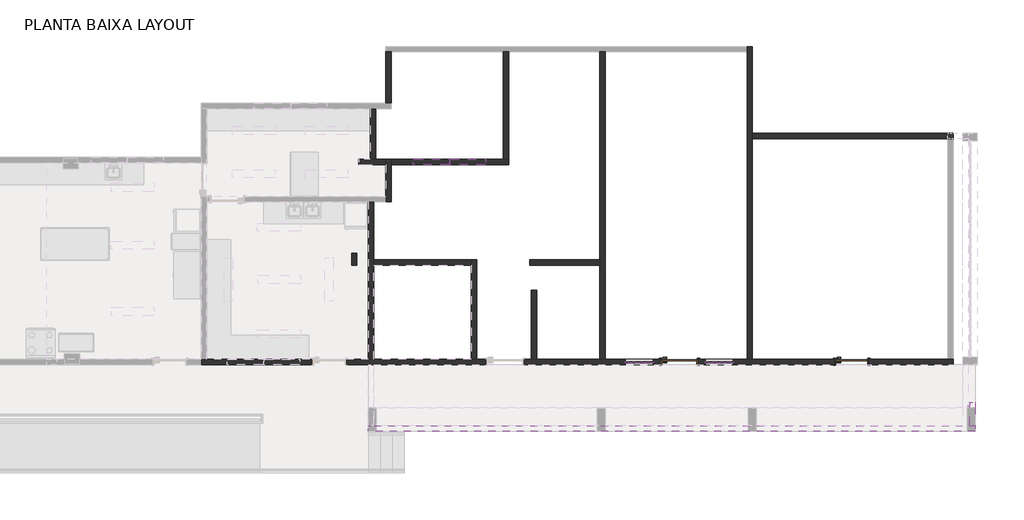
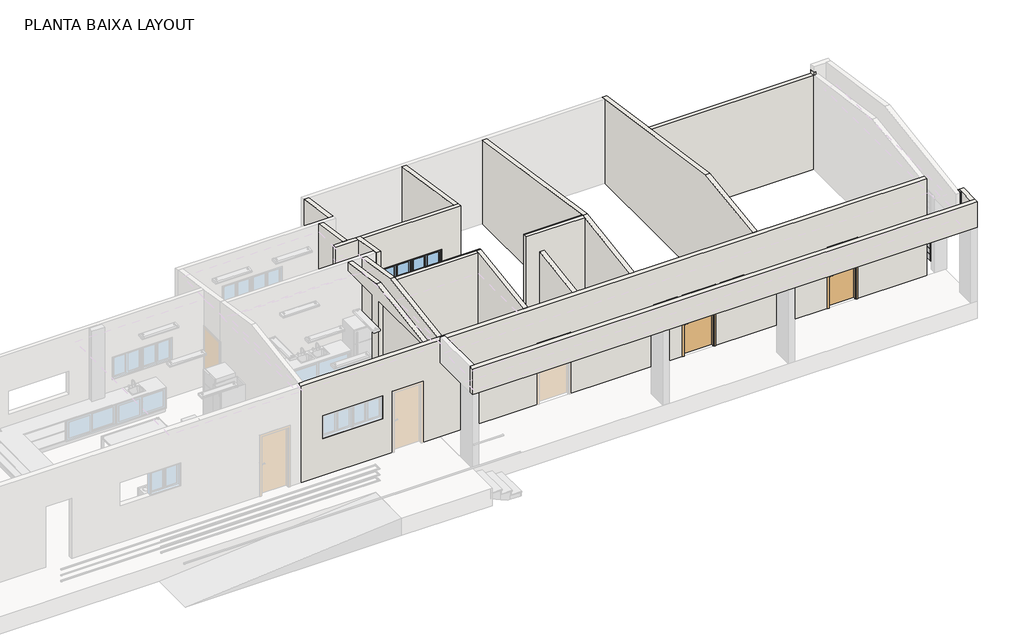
# One storey, part 2 of 6: 65 plates, 19 walls, 3 windows, 2 doors.
"""IFC4 building model written with IfcOpenShell, lengths in millimetres."""

from ifc_helpers import new_model, si_unit, frame, origin, place, context, project, spatial, polyline, outline, extrude, faceted_brep, transform, mapped, element, save
from components import door_11dd9e2f, door_7d303a18, system_panel_vidro_2cm_d02c202c, system_panel_vidro_2cm_242b1e41, window_31080834, window_2c990719, window_158f51de

model = new_model("IFC4")

# Units and contexts
model_context = context("Model", 3, world=origin())
ifc_project = project(units=[si_unit("LENGTHUNIT", "METRE", prefix="MILLI")], contexts=[model_context])

# Site, building, storey
site = spatial("IfcSite", under=ifc_project)
building = spatial("IfcBuilding", under=site)
storey = spatial("IfcBuildingStorey", under=building, Name="PLANTA BAIXA LAYOUT", Elevation=0.0)

# Doors
placement = place(None, origin())
door_shape = door_11dd9e2f(model_context)
element("IfcDoor", 1, ObjectType="Porta acessivel 90cm-FLA : 100x210 (acessível s/ barra)", at=placement, inside=storey, context=model_context, shape_type="MappedRepresentation", body=[
    mapped(door_shape, transform((9840.1165906, -8042.0637549, 0.0), x_axis=(1.0, 0.0, 0.0), y_axis=(0.0, 1.0, 0.0), z_axis=(0.0, 0.0, 1.0))),
])
door_2_shape = door_7d303a18(model_context)
element("IfcDoor", 2, ObjectType="Porta acessivel 90cm-FLA : 90x210 (acessível s/ barra)", at=placement, inside=storey, context=model_context, shape_type="MappedRepresentation", body=[
    mapped(door_2_shape, transform((14610.1165906, -8042.0637549, 0.0), x_axis=(1.0, 0.0, 0.0), y_axis=(0.0, 1.0, 0.0), z_axis=(0.0, 0.0, 1.0))),
])

# Plates
system_panel_vidro_2cm_shape = system_panel_vidro_2cm_d02c202c(model_context)
element("IfcPlate", 3, ObjectType="System Panel : Vidro 2cm", at=placement, inside=storey, context=model_context, shape_type="MappedRepresentation", body=[
    mapped(system_panel_vidro_2cm_shape, transform((8432.6165906, -8042.0637549, 1150.0), x_axis=(1.0, 0.0, 0.0), y_axis=(0.0, 1.0, 0.0), z_axis=(0.0, 0.0, 1.0))),
])
element("IfcPlate", 4, ObjectType="System Panel : Vidro 2cm", at=placement, inside=storey, context=model_context, shape_type="MappedRepresentation", body=[
    mapped(system_panel_vidro_2cm_shape, transform((8632.6165906, -8042.0637549, 1150.0), x_axis=(1.0, 0.0, 0.0), y_axis=(0.0, 1.0, 0.0), z_axis=(0.0, 0.0, 1.0))),
])
element("IfcPlate", 5, ObjectType="System Panel : Vidro 2cm", at=placement, inside=storey, context=model_context, shape_type="MappedRepresentation", body=[
    mapped(system_panel_vidro_2cm_shape, transform((8832.6165906, -8042.0637549, 1150.0), x_axis=(1.0, 0.0, 0.0), y_axis=(0.0, 1.0, 0.0), z_axis=(0.0, 0.0, 1.0))),
])
element("IfcPlate", 6, ObjectType="System Panel : Vidro 2cm", at=placement, inside=storey, context=model_context, shape_type="MappedRepresentation", body=[
    mapped(system_panel_vidro_2cm_shape, transform((8432.6165906, -8042.0637549, 1350.0), x_axis=(1.0, 0.0, 0.0), y_axis=(0.0, 1.0, 0.0), z_axis=(0.0, 0.0, 1.0))),
])
element("IfcPlate", 7, ObjectType="System Panel : Vidro 2cm", at=placement, inside=storey, context=model_context, shape_type="MappedRepresentation", body=[
    mapped(system_panel_vidro_2cm_shape, transform((8632.6165906, -8042.0637549, 1350.0), x_axis=(1.0, 0.0, 0.0), y_axis=(0.0, 1.0, 0.0), z_axis=(0.0, 0.0, 1.0))),
])
element("IfcPlate", 8, ObjectType="System Panel : Vidro 2cm", at=placement, inside=storey, context=model_context, shape_type="MappedRepresentation", body=[
    mapped(system_panel_vidro_2cm_shape, transform((8832.6165906, -8042.0637549, 1350.0), x_axis=(1.0, 0.0, 0.0), y_axis=(0.0, 1.0, 0.0), z_axis=(0.0, 0.0, 1.0))),
])
element("IfcPlate", 9, ObjectType="System Panel : Vidro 2cm", at=placement, inside=storey, context=model_context, shape_type="MappedRepresentation", body=[
    mapped(system_panel_vidro_2cm_shape, transform((8432.6165906, -8042.0637549, 1550.0), x_axis=(1.0, 0.0, 0.0), y_axis=(0.0, 1.0, 0.0), z_axis=(0.0, 0.0, 1.0))),
])
element("IfcPlate", 10, ObjectType="System Panel : Vidro 2cm", at=placement, inside=storey, context=model_context, shape_type="MappedRepresentation", body=[
    mapped(system_panel_vidro_2cm_shape, transform((8632.6165906, -8042.0637549, 1550.0), x_axis=(1.0, 0.0, 0.0), y_axis=(0.0, 1.0, 0.0), z_axis=(0.0, 0.0, 1.0))),
])
element("IfcPlate", 11, ObjectType="System Panel : Vidro 2cm", at=placement, inside=storey, context=model_context, shape_type="MappedRepresentation", body=[
    mapped(system_panel_vidro_2cm_shape, transform((8832.6165906, -8042.0637549, 1550.0), x_axis=(1.0, 0.0, 0.0), y_axis=(0.0, 1.0, 0.0), z_axis=(0.0, 0.0, 1.0))),
])
element("IfcPlate", 12, ObjectType="System Panel : Vidro 2cm", at=placement, inside=storey, context=model_context, shape_type="MappedRepresentation", body=[
    mapped(system_panel_vidro_2cm_shape, transform((8432.6165906, -8042.0637549, 1750.0), x_axis=(1.0, 0.0, 0.0), y_axis=(0.0, 1.0, 0.0), z_axis=(0.0, 0.0, 1.0))),
])
element("IfcPlate", 13, ObjectType="System Panel : Vidro 2cm", at=placement, inside=storey, context=model_context, shape_type="MappedRepresentation", body=[
    mapped(system_panel_vidro_2cm_shape, transform((8632.6165906, -8042.0637549, 1750.0), x_axis=(1.0, 0.0, 0.0), y_axis=(0.0, 1.0, 0.0), z_axis=(0.0, 0.0, 1.0))),
])
element("IfcPlate", 14, ObjectType="System Panel : Vidro 2cm", at=placement, inside=storey, context=model_context, shape_type="MappedRepresentation", body=[
    mapped(system_panel_vidro_2cm_shape, transform((8832.6165906, -8042.0637549, 1750.0), x_axis=(1.0, 0.0, 0.0), y_axis=(0.0, 1.0, 0.0), z_axis=(0.0, 0.0, 1.0))),
])
element("IfcPlate", 15, ObjectType="System Panel : Vidro 2cm", at=placement, inside=storey, context=model_context, shape_type="MappedRepresentation", body=[
    mapped(system_panel_vidro_2cm_shape, transform((8432.6165906, -8042.0637549, 1950.0), x_axis=(1.0, 0.0, 0.0), y_axis=(0.0, 1.0, 0.0), z_axis=(0.0, 0.0, 1.0))),
])
element("IfcPlate", 16, ObjectType="System Panel : Vidro 2cm", at=placement, inside=storey, context=model_context, shape_type="MappedRepresentation", body=[
    mapped(system_panel_vidro_2cm_shape, transform((8632.6165906, -8042.0637549, 1950.0), x_axis=(1.0, 0.0, 0.0), y_axis=(0.0, 1.0, 0.0), z_axis=(0.0, 0.0, 1.0))),
])
element("IfcPlate", 17, ObjectType="System Panel : Vidro 2cm", at=placement, inside=storey, context=model_context, shape_type="MappedRepresentation", body=[
    mapped(system_panel_vidro_2cm_shape, transform((8832.6165906, -8042.0637549, 1950.0), x_axis=(1.0, 0.0, 0.0), y_axis=(0.0, 1.0, 0.0), z_axis=(0.0, 0.0, 1.0))),
])
element("IfcPlate", 18, ObjectType="System Panel : Vidro 2cm", at=placement, inside=storey, context=model_context, shape_type="MappedRepresentation", body=[
    mapped(system_panel_vidro_2cm_shape, transform((10652.6165906, -8042.0637549, 1150.0), x_axis=(1.0, 0.0, 0.0), y_axis=(0.0, 1.0, 0.0), z_axis=(0.0, 0.0, 1.0))),
])
element("IfcPlate", 19, ObjectType="System Panel : Vidro 2cm", at=placement, inside=storey, context=model_context, shape_type="MappedRepresentation", body=[
    mapped(system_panel_vidro_2cm_shape, transform((10852.6165906, -8042.0637549, 1150.0), x_axis=(1.0, 0.0, 0.0), y_axis=(0.0, 1.0, 0.0), z_axis=(0.0, 0.0, 1.0))),
])
element("IfcPlate", 20, ObjectType="System Panel : Vidro 2cm", at=placement, inside=storey, context=model_context, shape_type="MappedRepresentation", body=[
    mapped(system_panel_vidro_2cm_shape, transform((11052.6165906, -8042.0637549, 1150.0), x_axis=(1.0, 0.0, 0.0), y_axis=(0.0, 1.0, 0.0), z_axis=(0.0, 0.0, 1.0))),
])
element("IfcPlate", 21, ObjectType="System Panel : Vidro 2cm", at=placement, inside=storey, context=model_context, shape_type="MappedRepresentation", body=[
    mapped(system_panel_vidro_2cm_shape, transform((10652.6165906, -8042.0637549, 1350.0), x_axis=(1.0, 0.0, 0.0), y_axis=(0.0, 1.0, 0.0), z_axis=(0.0, 0.0, 1.0))),
])
element("IfcPlate", 22, ObjectType="System Panel : Vidro 2cm", at=placement, inside=storey, context=model_context, shape_type="MappedRepresentation", body=[
    mapped(system_panel_vidro_2cm_shape, transform((10852.6165906, -8042.0637549, 1350.0), x_axis=(1.0, 0.0, 0.0), y_axis=(0.0, 1.0, 0.0), z_axis=(0.0, 0.0, 1.0))),
])
element("IfcPlate", 23, ObjectType="System Panel : Vidro 2cm", at=placement, inside=storey, context=model_context, shape_type="MappedRepresentation", body=[
    mapped(system_panel_vidro_2cm_shape, transform((11052.6165906, -8042.0637549, 1350.0), x_axis=(1.0, 0.0, 0.0), y_axis=(0.0, 1.0, 0.0), z_axis=(0.0, 0.0, 1.0))),
])
element("IfcPlate", 24, ObjectType="System Panel : Vidro 2cm", at=placement, inside=storey, context=model_context, shape_type="MappedRepresentation", body=[
    mapped(system_panel_vidro_2cm_shape, transform((10652.6165906, -8042.0637549, 1550.0), x_axis=(1.0, 0.0, 0.0), y_axis=(0.0, 1.0, 0.0), z_axis=(0.0, 0.0, 1.0))),
])
element("IfcPlate", 25, ObjectType="System Panel : Vidro 2cm", at=placement, inside=storey, context=model_context, shape_type="MappedRepresentation", body=[
    mapped(system_panel_vidro_2cm_shape, transform((10852.6165906, -8042.0637549, 1550.0), x_axis=(1.0, 0.0, 0.0), y_axis=(0.0, 1.0, 0.0), z_axis=(0.0, 0.0, 1.0))),
])
element("IfcPlate", 26, ObjectType="System Panel : Vidro 2cm", at=placement, inside=storey, context=model_context, shape_type="MappedRepresentation", body=[
    mapped(system_panel_vidro_2cm_shape, transform((11052.6165906, -8042.0637549, 1550.0), x_axis=(1.0, 0.0, 0.0), y_axis=(0.0, 1.0, 0.0), z_axis=(0.0, 0.0, 1.0))),
])
element("IfcPlate", 27, ObjectType="System Panel : Vidro 2cm", at=placement, inside=storey, context=model_context, shape_type="MappedRepresentation", body=[
    mapped(system_panel_vidro_2cm_shape, transform((10652.6165906, -8042.0637549, 1750.0), x_axis=(1.0, 0.0, 0.0), y_axis=(0.0, 1.0, 0.0), z_axis=(0.0, 0.0, 1.0))),
])
element("IfcPlate", 28, ObjectType="System Panel : Vidro 2cm", at=placement, inside=storey, context=model_context, shape_type="MappedRepresentation", body=[
    mapped(system_panel_vidro_2cm_shape, transform((10852.6165906, -8042.0637549, 1750.0), x_axis=(1.0, 0.0, 0.0), y_axis=(0.0, 1.0, 0.0), z_axis=(0.0, 0.0, 1.0))),
])
element("IfcPlate", 29, ObjectType="System Panel : Vidro 2cm", at=placement, inside=storey, context=model_context, shape_type="MappedRepresentation", body=[
    mapped(system_panel_vidro_2cm_shape, transform((11052.6165906, -8042.0637549, 1750.0), x_axis=(1.0, 0.0, 0.0), y_axis=(0.0, 1.0, 0.0), z_axis=(0.0, 0.0, 1.0))),
])
element("IfcPlate", 30, ObjectType="System Panel : Vidro 2cm", at=placement, inside=storey, context=model_context, shape_type="MappedRepresentation", body=[
    mapped(system_panel_vidro_2cm_shape, transform((10652.6165906, -8042.0637549, 1950.0), x_axis=(1.0, 0.0, 0.0), y_axis=(0.0, 1.0, 0.0), z_axis=(0.0, 0.0, 1.0))),
])
element("IfcPlate", 31, ObjectType="System Panel : Vidro 2cm", at=placement, inside=storey, context=model_context, shape_type="MappedRepresentation", body=[
    mapped(system_panel_vidro_2cm_shape, transform((10852.6165906, -8042.0637549, 1950.0), x_axis=(1.0, 0.0, 0.0), y_axis=(0.0, 1.0, 0.0), z_axis=(0.0, 0.0, 1.0))),
])
element("IfcPlate", 32, ObjectType="System Panel : Vidro 2cm", at=placement, inside=storey, context=model_context, shape_type="MappedRepresentation", body=[
    mapped(system_panel_vidro_2cm_shape, transform((11052.6165906, -8042.0637549, 1950.0), x_axis=(1.0, 0.0, 0.0), y_axis=(0.0, 1.0, 0.0), z_axis=(0.0, 0.0, 1.0))),
])
element("IfcPlate", 33, ObjectType="System Panel : Vidro 2cm", at=placement, inside=storey, context=model_context, shape_type="MappedRepresentation", body=[
    mapped(system_panel_vidro_2cm_shape, transform((17877.6165906, -7817.0637549, 0.0), x_axis=(0.0, 1.0, 0.0), y_axis=(-1.0, 0.0, 0.0), z_axis=(0.0, 0.0, 1.0))),
])
element("IfcPlate", 34, ObjectType="System Panel : Vidro 2cm", at=placement, inside=storey, context=model_context, shape_type="MappedRepresentation", body=[
    mapped(system_panel_vidro_2cm_shape, transform((17877.6165906, -7617.0637549, 0.0), x_axis=(0.0, 1.0, 0.0), y_axis=(-1.0, 0.0, 0.0), z_axis=(0.0, 0.0, 1.0))),
])
element("IfcPlate", 35, ObjectType="System Panel : Vidro 2cm", at=placement, inside=storey, context=model_context, shape_type="MappedRepresentation", body=[
    mapped(system_panel_vidro_2cm_shape, transform((17877.6165906, -7417.0637549, 0.0), x_axis=(0.0, 1.0, 0.0), y_axis=(-1.0, 0.0, 0.0), z_axis=(0.0, 0.0, 1.0))),
])
element("IfcPlate", 36, ObjectType="System Panel : Vidro 2cm", at=placement, inside=storey, context=model_context, shape_type="MappedRepresentation", body=[
    mapped(system_panel_vidro_2cm_shape, transform((17877.6165906, -7217.0637549, 0.0), x_axis=(0.0, 1.0, 0.0), y_axis=(-1.0, 0.0, 0.0), z_axis=(0.0, 0.0, 1.0))),
])
element("IfcPlate", 37, ObjectType="System Panel : Vidro 2cm", at=placement, inside=storey, context=model_context, shape_type="MappedRepresentation", body=[
    mapped(system_panel_vidro_2cm_shape, transform((17877.6165906, -7017.0637549, 0.0), x_axis=(0.0, 1.0, 0.0), y_axis=(-1.0, 0.0, 0.0), z_axis=(0.0, 0.0, 1.0))),
])
element("IfcPlate", 38, ObjectType="System Panel : Vidro 2cm", at=placement, inside=storey, context=model_context, shape_type="MappedRepresentation", body=[
    mapped(system_panel_vidro_2cm_shape, transform((17877.6165906, -7817.0637549, 200.0), x_axis=(0.0, 1.0, 0.0), y_axis=(-1.0, 0.0, 0.0), z_axis=(0.0, 0.0, 1.0))),
])
element("IfcPlate", 39, ObjectType="System Panel : Vidro 2cm", at=placement, inside=storey, context=model_context, shape_type="MappedRepresentation", body=[
    mapped(system_panel_vidro_2cm_shape, transform((17877.6165906, -7617.0637549, 200.0), x_axis=(0.0, 1.0, 0.0), y_axis=(-1.0, 0.0, 0.0), z_axis=(0.0, 0.0, 1.0))),
])
element("IfcPlate", 40, ObjectType="System Panel : Vidro 2cm", at=placement, inside=storey, context=model_context, shape_type="MappedRepresentation", body=[
    mapped(system_panel_vidro_2cm_shape, transform((17877.6165906, -7417.0637549, 200.0), x_axis=(0.0, 1.0, 0.0), y_axis=(-1.0, 0.0, 0.0), z_axis=(0.0, 0.0, 1.0))),
])
element("IfcPlate", 41, ObjectType="System Panel : Vidro 2cm", at=placement, inside=storey, context=model_context, shape_type="MappedRepresentation", body=[
    mapped(system_panel_vidro_2cm_shape, transform((17877.6165906, -7217.0637549, 200.0), x_axis=(0.0, 1.0, 0.0), y_axis=(-1.0, 0.0, 0.0), z_axis=(0.0, 0.0, 1.0))),
])
element("IfcPlate", 42, ObjectType="System Panel : Vidro 2cm", at=placement, inside=storey, context=model_context, shape_type="MappedRepresentation", body=[
    mapped(system_panel_vidro_2cm_shape, transform((17877.6165906, -7017.0637549, 200.0), x_axis=(0.0, 1.0, 0.0), y_axis=(-1.0, 0.0, 0.0), z_axis=(0.0, 0.0, 1.0))),
])
element("IfcPlate", 43, ObjectType="System Panel : Vidro 2cm", at=placement, inside=storey, context=model_context, shape_type="MappedRepresentation", body=[
    mapped(system_panel_vidro_2cm_shape, transform((17877.6165906, -7817.0637549, 400.0), x_axis=(0.0, 1.0, 0.0), y_axis=(-1.0, 0.0, 0.0), z_axis=(0.0, 0.0, 1.0))),
])
element("IfcPlate", 44, ObjectType="System Panel : Vidro 2cm", at=placement, inside=storey, context=model_context, shape_type="MappedRepresentation", body=[
    mapped(system_panel_vidro_2cm_shape, transform((17877.6165906, -7617.0637549, 400.0), x_axis=(0.0, 1.0, 0.0), y_axis=(-1.0, 0.0, 0.0), z_axis=(0.0, 0.0, 1.0))),
])
element("IfcPlate", 45, ObjectType="System Panel : Vidro 2cm", at=placement, inside=storey, context=model_context, shape_type="MappedRepresentation", body=[
    mapped(system_panel_vidro_2cm_shape, transform((17877.6165906, -7417.0637549, 400.0), x_axis=(0.0, 1.0, 0.0), y_axis=(-1.0, 0.0, 0.0), z_axis=(0.0, 0.0, 1.0))),
])
element("IfcPlate", 46, ObjectType="System Panel : Vidro 2cm", at=placement, inside=storey, context=model_context, shape_type="MappedRepresentation", body=[
    mapped(system_panel_vidro_2cm_shape, transform((17877.6165906, -7217.0637549, 400.0), x_axis=(0.0, 1.0, 0.0), y_axis=(-1.0, 0.0, 0.0), z_axis=(0.0, 0.0, 1.0))),
])
element("IfcPlate", 47, ObjectType="System Panel : Vidro 2cm", at=placement, inside=storey, context=model_context, shape_type="MappedRepresentation", body=[
    mapped(system_panel_vidro_2cm_shape, transform((17877.6165906, -7017.0637549, 400.0), x_axis=(0.0, 1.0, 0.0), y_axis=(-1.0, 0.0, 0.0), z_axis=(0.0, 0.0, 1.0))),
])
element("IfcPlate", 48, ObjectType="System Panel : Vidro 2cm", at=placement, inside=storey, context=model_context, shape_type="MappedRepresentation", body=[
    mapped(system_panel_vidro_2cm_shape, transform((17877.6165906, -7817.0637549, 600.0), x_axis=(0.0, 1.0, 0.0), y_axis=(-1.0, 0.0, 0.0), z_axis=(0.0, 0.0, 1.0))),
])
element("IfcPlate", 49, ObjectType="System Panel : Vidro 2cm", at=placement, inside=storey, context=model_context, shape_type="MappedRepresentation", body=[
    mapped(system_panel_vidro_2cm_shape, transform((17877.6165906, -7617.0637549, 600.0), x_axis=(0.0, 1.0, 0.0), y_axis=(-1.0, 0.0, 0.0), z_axis=(0.0, 0.0, 1.0))),
])
element("IfcPlate", 50, ObjectType="System Panel : Vidro 2cm", at=placement, inside=storey, context=model_context, shape_type="MappedRepresentation", body=[
    mapped(system_panel_vidro_2cm_shape, transform((17877.6165906, -7417.0637549, 600.0), x_axis=(0.0, 1.0, 0.0), y_axis=(-1.0, 0.0, 0.0), z_axis=(0.0, 0.0, 1.0))),
])
element("IfcPlate", 51, ObjectType="System Panel : Vidro 2cm", at=placement, inside=storey, context=model_context, shape_type="MappedRepresentation", body=[
    mapped(system_panel_vidro_2cm_shape, transform((17877.6165906, -7217.0637549, 600.0), x_axis=(0.0, 1.0, 0.0), y_axis=(-1.0, 0.0, 0.0), z_axis=(0.0, 0.0, 1.0))),
])
element("IfcPlate", 52, ObjectType="System Panel : Vidro 2cm", at=placement, inside=storey, context=model_context, shape_type="MappedRepresentation", body=[
    mapped(system_panel_vidro_2cm_shape, transform((17877.6165906, -7017.0637549, 600.0), x_axis=(0.0, 1.0, 0.0), y_axis=(-1.0, 0.0, 0.0), z_axis=(0.0, 0.0, 1.0))),
])
element("IfcPlate", 53, ObjectType="System Panel : Vidro 2cm", at=placement, inside=storey, context=model_context, shape_type="MappedRepresentation", body=[
    mapped(system_panel_vidro_2cm_shape, transform((17877.6165906, -7817.0637549, 800.0), x_axis=(0.0, 1.0, 0.0), y_axis=(-1.0, 0.0, 0.0), z_axis=(0.0, 0.0, 1.0))),
])
element("IfcPlate", 54, ObjectType="System Panel : Vidro 2cm", at=placement, inside=storey, context=model_context, shape_type="MappedRepresentation", body=[
    mapped(system_panel_vidro_2cm_shape, transform((17877.6165906, -7617.0637549, 800.0), x_axis=(0.0, 1.0, 0.0), y_axis=(-1.0, 0.0, 0.0), z_axis=(0.0, 0.0, 1.0))),
])
element("IfcPlate", 55, ObjectType="System Panel : Vidro 2cm", at=placement, inside=storey, context=model_context, shape_type="MappedRepresentation", body=[
    mapped(system_panel_vidro_2cm_shape, transform((17877.6165906, -7417.0637549, 800.0), x_axis=(0.0, 1.0, 0.0), y_axis=(-1.0, 0.0, 0.0), z_axis=(0.0, 0.0, 1.0))),
])
element("IfcPlate", 56, ObjectType="System Panel : Vidro 2cm", at=placement, inside=storey, context=model_context, shape_type="MappedRepresentation", body=[
    mapped(system_panel_vidro_2cm_shape, transform((17877.6165906, -7217.0637549, 800.0), x_axis=(0.0, 1.0, 0.0), y_axis=(-1.0, 0.0, 0.0), z_axis=(0.0, 0.0, 1.0))),
])
element("IfcPlate", 57, ObjectType="System Panel : Vidro 2cm", at=placement, inside=storey, context=model_context, shape_type="MappedRepresentation", body=[
    mapped(system_panel_vidro_2cm_shape, transform((17877.6165906, -7017.0637549, 800.0), x_axis=(0.0, 1.0, 0.0), y_axis=(-1.0, 0.0, 0.0), z_axis=(0.0, 0.0, 1.0))),
])
system_panel_vidro_2cm_2_shape = system_panel_vidro_2cm_242b1e41(model_context)
element("IfcPlate", 58, ObjectType="System Panel : Vidro 2cm", at=placement, inside=storey, context=model_context, shape_type="MappedRepresentation", body=[
    mapped(system_panel_vidro_2cm_2_shape, transform((9022.6165906, -8042.0637549, 1150.0), x_axis=(1.0, 0.0, 0.0), y_axis=(0.0, 1.0, 0.0), z_axis=(0.0, 0.0, 1.0))),
])
element("IfcPlate", 59, ObjectType="System Panel : Vidro 2cm", at=placement, inside=storey, context=model_context, shape_type="MappedRepresentation", body=[
    mapped(system_panel_vidro_2cm_2_shape, transform((9022.6165906, -8042.0637549, 1350.0), x_axis=(1.0, 0.0, 0.0), y_axis=(0.0, 1.0, 0.0), z_axis=(0.0, 0.0, 1.0))),
])
element("IfcPlate", 60, ObjectType="System Panel : Vidro 2cm", at=placement, inside=storey, context=model_context, shape_type="MappedRepresentation", body=[
    mapped(system_panel_vidro_2cm_2_shape, transform((9022.6165906, -8042.0637549, 1550.0), x_axis=(1.0, 0.0, 0.0), y_axis=(0.0, 1.0, 0.0), z_axis=(0.0, 0.0, 1.0))),
])
element("IfcPlate", 61, ObjectType="System Panel : Vidro 2cm", at=placement, inside=storey, context=model_context, shape_type="MappedRepresentation", body=[
    mapped(system_panel_vidro_2cm_2_shape, transform((9022.6165906, -8042.0637549, 1750.0), x_axis=(1.0, 0.0, 0.0), y_axis=(0.0, 1.0, 0.0), z_axis=(0.0, 0.0, 1.0))),
])
element("IfcPlate", 62, ObjectType="System Panel : Vidro 2cm", at=placement, inside=storey, context=model_context, shape_type="MappedRepresentation", body=[
    mapped(system_panel_vidro_2cm_2_shape, transform((9022.6165906, -8042.0637549, 1950.0), x_axis=(1.0, 0.0, 0.0), y_axis=(0.0, 1.0, 0.0), z_axis=(0.0, 0.0, 1.0))),
])
element("IfcPlate", 63, ObjectType="System Panel : Vidro 2cm", at=placement, inside=storey, context=model_context, shape_type="MappedRepresentation", body=[
    mapped(system_panel_vidro_2cm_2_shape, transform((11242.6165906, -8042.0637549, 1150.0), x_axis=(1.0, 0.0, 0.0), y_axis=(0.0, 1.0, 0.0), z_axis=(0.0, 0.0, 1.0))),
])
element("IfcPlate", 64, ObjectType="System Panel : Vidro 2cm", at=placement, inside=storey, context=model_context, shape_type="MappedRepresentation", body=[
    mapped(system_panel_vidro_2cm_2_shape, transform((11242.6165906, -8042.0637549, 1350.0), x_axis=(1.0, 0.0, 0.0), y_axis=(0.0, 1.0, 0.0), z_axis=(0.0, 0.0, 1.0))),
])
element("IfcPlate", 65, ObjectType="System Panel : Vidro 2cm", at=placement, inside=storey, context=model_context, shape_type="MappedRepresentation", body=[
    mapped(system_panel_vidro_2cm_2_shape, transform((11242.6165906, -8042.0637549, 1550.0), x_axis=(1.0, 0.0, 0.0), y_axis=(0.0, 1.0, 0.0), z_axis=(0.0, 0.0, 1.0))),
])
element("IfcPlate", 66, ObjectType="System Panel : Vidro 2cm", at=placement, inside=storey, context=model_context, shape_type="MappedRepresentation", body=[
    mapped(system_panel_vidro_2cm_2_shape, transform((11242.6165906, -8042.0637549, 1750.0), x_axis=(1.0, 0.0, 0.0), y_axis=(0.0, 1.0, 0.0), z_axis=(0.0, 0.0, 1.0))),
])
element("IfcPlate", 67, ObjectType="System Panel : Vidro 2cm", at=placement, inside=storey, context=model_context, shape_type="MappedRepresentation", body=[
    mapped(system_panel_vidro_2cm_2_shape, transform((11242.6165906, -8042.0637549, 1950.0), x_axis=(1.0, 0.0, 0.0), y_axis=(0.0, 1.0, 0.0), z_axis=(0.0, 0.0, 1.0))),
])

# Walls
element("IfcWall", 68, ObjectType="15cm- Reboco (ambos)", at=placement, inside=storey, context=model_context, shape_type="Brep", body=[
    faceted_brep([(-3392.3834094, -7967.0637549, 3400.0), (17407.6165906, -7967.0637549, 3400.0), (17407.6165906, -7967.0637549, 0.0), (17257.6165906, -7967.0637549, 0.0), (15072.6165906, -7967.0637549, 0.0), (15072.6165906, -7967.0637549, 2120.0), (14132.6165906, -7967.0637549, 2120.0), (14132.6165906, -7967.0637549, 0.0), (11857.6165906, -7967.0637549, 0.0), (11707.6165906, -7967.0637549, 0.0), (10352.6165906, -7967.0637549, 0.0), (10352.6165906, -7967.0637549, 2120.0), (9312.6165906, -7967.0637549, 2120.0), (9312.6165906, -7967.0637549, 0.0), (7782.0025128, -7967.0637549, 0.0), (7632.0025128, -7967.0637549, 0.0), (5882.6165906, -7967.0637549, 0.0), (5732.6165906, -7967.0637549, 0.0), (5532.6165906, -7967.0637549, 0.0), (5532.6165906, -7967.0637549, 2120.0), (4492.6165906, -7967.0637549, 2120.0), (4492.6165906, -7967.0637549, 0.0), (4232.6165906, -7967.0637549, 0.0), (4082.6165906, -7967.0637549, 0.0), (1382.6165906, -7967.0637549, 0.0), (1232.6165906, -7967.0637549, 0.0), (622.6165906, -7967.0637549, 0.0), (622.6165906, -7967.0637549, 2120.0), (-317.3834094, -7967.0637549, 2120.0), (-317.3834094, -7967.0637549, 0.0), (-3392.3834094, -7967.0637549, 0.0), (-672.3834094, -7967.0637549, 1300.0), (-672.3834094, -7967.0637549, 2100.0), (-2672.3834094, -7967.0637549, 2100.0), (-2672.3834094, -7967.0637549, 1300.0), (8332.6165906, -7967.0637549, 2150.0), (8332.6165906, -7967.0637549, 1150.0), (9112.6165906, -7967.0637549, 1150.0), (9112.6165906, -7967.0637549, 2150.0), (10552.6165906, -7967.0637549, 2150.0), (10552.6165906, -7967.0637549, 1150.0), (11332.6165906, -7967.0637549, 1150.0), (11332.6165906, -7967.0637549, 2150.0), (17407.6165906, -8117.0637549, 3400.0), (-3392.3834094, -8117.0637549, 3400.0), (-3392.3834094, -8117.0637549, 3377.5), (-3392.3834094, -8117.0637549, 0.0), (-317.3834094, -8117.0637549, 0.0), (-317.3834094, -8117.0637549, 2120.0), (622.6165906, -8117.0637549, 2120.0), (622.6165906, -8117.0637549, 0.0), (4492.6165906, -8117.0637549, 0.0), (4492.6165906, -8117.0637549, 2120.0), (5532.6165906, -8117.0637549, 2120.0), (5532.6165906, -8117.0637549, 0.0), (9312.6165906, -8117.0637549, 0.0), (9312.6165906, -8117.0637549, 2120.0), (10352.6165906, -8117.0637549, 2120.0), (10352.6165906, -8117.0637549, 0.0), (14132.6165906, -8117.0637549, 0.0), (14132.6165906, -8117.0637549, 2120.0), (15072.6165906, -8117.0637549, 2120.0), (15072.6165906, -8117.0637549, 0.0), (17407.6165906, -8117.0637549, 0.0), (-672.3834094, -8117.0637549, 2100.0), (-672.3834094, -8117.0637549, 1300.0), (-2672.3834094, -8117.0637549, 1300.0), (-2672.3834094, -8117.0637549, 2100.0), (8332.6165906, -8117.0637549, 1150.0), (8332.6165906, -8117.0637549, 2150.0), (9112.6165906, -8117.0637549, 2150.0), (9112.6165906, -8117.0637549, 1150.0), (10552.6165906, -8117.0637549, 1150.0), (10552.6165906, -8117.0637549, 2150.0), (11332.6165906, -8117.0637549, 2150.0), (11332.6165906, -8117.0637549, 1150.0)], [[[0, 1, 2, 3, 4, 5, 6, 7, 8, 9, 10, 11, 12, 13, 14, 15, 16, 17, 18, 19, 20, 21, 22, 23, 24, 25, 26, 27, 28, 29, 30], [31, 32, 33, 34], [35, 36, 37, 38], [39, 40, 41, 42]], [[43, 44, 45, 46, 47, 48, 49, 50, 51, 52, 53, 54, 55, 56, 57, 58, 59, 60, 61, 62, 63], [64, 65, 66, 67], [68, 69, 70, 71], [72, 73, 74, 75]], [[46, 30, 29, 47]], [[21, 51, 50, 26, 25, 24, 23, 22]], [[54, 18, 17, 16, 15, 14, 13, 55]], [[58, 10, 9, 8, 7, 59]], [[62, 4, 3, 2, 63]], [[1, 0, 44, 43]], [[0, 30, 46, 45, 44]], [[27, 26, 50, 49]], [[32, 64, 67, 33]], [[65, 64, 32, 31]], [[65, 31, 34, 66]], [[34, 33, 67, 66]], [[52, 51, 21, 20]], [[53, 52, 20, 19]], [[54, 53, 19, 18]], [[56, 55, 13, 12]], [[57, 56, 12, 11]], [[58, 57, 11, 10]], [[60, 59, 7, 6]], [[61, 60, 6, 5]], [[62, 61, 5, 4]], [[35, 69, 68, 36]], [[69, 35, 38, 70]], [[70, 38, 37, 71]], [[36, 68, 71, 37]], [[72, 40, 39, 73]], [[73, 39, 42, 74]], [[74, 42, 41, 75]], [[40, 72, 75, 41]], [[2, 1, 43, 63]], [[28, 48, 47, 29]], [[27, 49, 48, 28]]]),
])
element("IfcWall", 69, ObjectType="15cm- Reboco (ambos)", at=placement, inside=storey, context=model_context, shape_type="Brep", body=[
    faceted_brep([(1232.6165906, -3617.0637549, 0.0), (1232.6165906, -7967.0637549, 0.0), (1232.6165906, -7967.0637549, 3400.0), (1232.6165906, -5252.0637549, 3807.25), (1232.6165906, -3617.0637549, 3562.0), (1382.6165906, -3617.0637549, 0.0), (1382.6165906, -3617.0637549, 3562.0), (1382.6165906, -5217.0637549, 3802.0), (1382.6165906, -5252.0637549, 3807.25), (1382.6165906, -5367.0637549, 3790.0), (1382.6165906, -7967.0637549, 3400.0), (1382.6165906, -7967.0637549, 0.0), (1382.6165906, -5367.0637549, 0.0), (1382.6165906, -5217.0637549, 0.0)], [[[0, 1, 2, 3, 4]], [[5, 6, 7, 8, 9, 10, 11, 12, 13]], [[1, 0, 5, 13, 12, 11]], [[0, 4, 6, 5]], [[2, 1, 11, 10]], [[4, 3, 8, 7, 6]], [[3, 2, 10, 9, 8]]]),
])
element("IfcWall", 70, ObjectType="15cm- Reboco (ambos)", at=placement, inside=storey, context=model_context, shape_type="SweptSolid", body=[
    extrude(outline(polyline([(-7967.0637549, 3285.0), (-7967.0637549, 3400.0), (-5252.0637549, 3807.25), (-3617.0637549, 3562.0), (-3617.0637549, 3285.0), (-5042.0637549, 3285.0), (-5042.0637549, 0.0), (-5372.0637549, 0.0), (-5372.0637549, 3285.0), (-7967.0637549, 3285.0)])), frame((762.6165906, 0.0, 0.0), z_axis=(1.0, 0.0, 0.0), x_axis=(0.0, 1.0, 0.0)), (0.0, 0.0, 1.0), 150.0),
])
element("IfcWall", 71, ObjectType="15cm- Reboco (ambos)", at=placement, inside=storey, context=model_context, shape_type="Brep", body=[
    faceted_brep([(1857.6165906, -3617.0637549, 0.0), (1857.6165906, -2592.0637549, 0.0), (1857.6165906, -2442.0637549, 0.0), (1857.6165906, -2442.0637549, 3385.75), (1857.6165906, -2592.0637549, 3408.25), (1857.6165906, -3617.0637549, 3562.0), (1707.6165906, -3617.0637549, 0.0), (1707.6165906, -3617.0637549, 3562.0), (1707.6165906, -3467.0637549, 3539.5), (1707.6165906, -2592.0637549, 3408.25), (1707.6165906, -2442.0637549, 3385.75), (1707.6165906, -2442.0637549, 0.0), (1707.6165906, -2592.0637549, 0.0), (1707.6165906, -3467.0637549, 0.0)], [[[0, 1, 2, 3, 4, 5]], [[6, 7, 8, 9, 10, 11, 12, 13]], [[2, 1, 0, 6, 13, 12, 11]], [[3, 2, 11, 10]], [[0, 5, 7, 6]], [[5, 4, 3, 10, 9, 8, 7]]]),
])
element("IfcWall", 72, ObjectType="15cm- Reboco (ambos)", at=placement, inside=storey, context=model_context, shape_type="Brep", body=[
    faceted_brep([(1707.6165906, -2442.0637549, 0.0), (1427.6165906, -2442.0637549, 0.0), (1277.6165906, -2442.0637549, 0.0), (957.6165906, -2442.0637549, 0.0), (957.6165906, -2442.0637549, 3385.75), (1277.6165906, -2442.0637549, 3385.75), (1427.6165906, -2442.0637549, 3385.75), (1707.6165906, -2442.0637549, 3385.75), (1707.6165906, -2592.0637549, 0.0), (1707.6165906, -2592.0637549, 3408.25), (957.6165906, -2592.0637549, 3408.25), (957.6165906, -2592.0637549, 0.0)], [[[0, 1, 2, 3, 4, 5, 6, 7]], [[8, 9, 10, 11]], [[3, 2, 1, 0, 8, 11]], [[4, 3, 11, 10]], [[0, 7, 9, 8]], [[7, 6, 5, 4, 10, 9]]]),
])
element("IfcWall", 73, ObjectType="15cm- Reboco (ambos)", at=placement, inside=storey, context=model_context, shape_type="SweptSolid", body=[
    extrude(outline(polyline([(-1042.0637549, 0.0), (-2442.0637549, 0.0), (-2442.0637549, 3385.75), (-1042.0637549, 3175.75), (-1042.0637549, 0.0)])), frame((1277.6165906, 0.0, 0.0), z_axis=(1.0, 0.0, 0.0), x_axis=(0.0, 1.0, 0.0)), (0.0, 0.0, 1.0), 150.0),
])
element("IfcWall", 74, ObjectType="15cm- Reboco (ambos)", at=placement, inside=storey, context=model_context, shape_type="Brep", body=[
    faceted_brep([(7782.0025128, -7967.0637549, 0.0), (7782.0025128, 532.9362451, 0.0), (7782.0025128, 532.9362451, 2939.5), (7782.0025128, -5252.0637549, 3807.25), (7782.0025128, -7967.0637549, 3400.0), (7632.0025128, -7967.0637549, 0.0), (7632.0025128, -7967.0637549, 3400.0), (7632.0025128, -5367.0637549, 3790.0), (7632.0025128, -5252.0637549, 3807.25), (7632.0025128, -5217.0637549, 3802.0), (7632.0025128, 532.9362451, 2939.5), (7632.0025128, 532.9362451, 0.0), (7632.0025128, -5217.0637549, 0.0), (7632.0025128, -5367.0637549, 0.0)], [[[0, 1, 2, 3, 4]], [[5, 6, 7, 8, 9, 10, 11, 12, 13]], [[1, 0, 5, 13, 12, 11]], [[0, 4, 6, 5]], [[2, 1, 11, 10]], [[4, 3, 8, 7, 6]], [[3, 2, 10, 9, 8]]]),
])
element("IfcWall", 75, ObjectType="15cm- Reboco (ambos)", at=placement, inside=storey, context=model_context, shape_type="Brep", body=[
    faceted_brep([(11707.6165906, 682.9362451, 0.0), (11707.6165906, 532.9362451, 0.0), (11707.6165906, -7967.0637549, 0.0), (11707.6165906, -7967.0637549, 3400.0), (11707.6165906, -5252.0637549, 3807.25), (11707.6165906, 532.9362451, 2939.5), (11707.6165906, 682.9362451, 2917.0), (11857.6165906, 682.9362451, 0.0), (11857.6165906, 682.9362451, 2917.0), (11857.6165906, -1717.0637549, 3277.0), (11857.6165906, -1867.0637549, 3299.5), (11857.6165906, -5252.0637549, 3807.25), (11857.6165906, -7967.0637549, 3400.0), (11857.6165906, -7967.0637549, 0.0), (11857.6165906, -1867.0637549, 0.0), (11857.6165906, -1717.0637549, 0.0)], [[[0, 1, 2, 3, 4, 5, 6]], [[7, 8, 9, 10, 11, 12, 13, 14, 15]], [[2, 1, 0, 7, 15, 14, 13]], [[3, 2, 13, 12]], [[0, 6, 8, 7]], [[6, 5, 4, 11, 10, 9, 8]], [[4, 3, 12, 11]]]),
])
element("IfcWall", 76, ObjectType="15cm- Reboco (ambos)", at=placement, inside=storey, context=model_context, shape_type="SweptSolid", body=[
    extrude(outline(polyline([(532.9362451, 0.0), (-892.0637549, 0.0), (-892.0637549, 3153.25), (532.9362451, 2939.5), (532.9362451, 0.0)])), frame((1707.6165906, 0.0, 0.0), z_axis=(1.0, 0.0, 0.0), x_axis=(0.0, 1.0, 0.0)), (0.0, 0.0, 1.0), 150.0),
])
element("IfcWall", 77, ObjectType="15cm- Reboco (ambos)", at=placement, inside=storey, context=model_context, shape_type="Brep", body=[
    faceted_brep([(1857.6165906, -2592.0637549, 0.0), (5107.6165906, -2592.0637549, 0.0), (5107.6165906, -2592.0637549, 3408.25), (1857.6165906, -2592.0637549, 3408.25), (2477.6165906, -2592.0637549, 2100.0), (4477.6165906, -2592.0637549, 2100.0), (4477.6165906, -2592.0637549, 1300.0), (2477.6165906, -2592.0637549, 1300.0), (5107.6165906, -2442.0637549, 0.0), (4957.6165906, -2442.0637549, 0.0), (1857.6165906, -2442.0637549, 0.0), (1857.6165906, -2442.0637549, 3385.75), (4957.6165906, -2442.0637549, 3385.75), (5107.6165906, -2442.0637549, 3385.75), (4477.6165906, -2442.0637549, 2100.0), (2477.6165906, -2442.0637549, 2100.0), (2477.6165906, -2442.0637549, 1300.0), (4477.6165906, -2442.0637549, 1300.0)], [[[0, 1, 2, 3], [4, 5, 6, 7]], [[8, 9, 10, 11, 12, 13], [14, 15, 16, 17]], [[1, 0, 10, 9, 8]], [[0, 3, 11, 10]], [[2, 1, 8, 13]], [[14, 5, 4, 15]], [[16, 15, 4, 7]], [[16, 7, 6, 17]], [[5, 14, 17, 6]], [[3, 2, 13, 12, 11]]]),
])
element("IfcWall", 78, ObjectType="15cm- Reboco (ambos)", at=placement, inside=storey, context=model_context, shape_type="SweptSolid", body=[
    extrude(outline(polyline([(-2442.0637549, 0.0), (-2442.0637549, 3385.75), (532.9362451, 2939.5), (532.9362451, 0.0), (-2442.0637549, 0.0)])), frame((4957.6165906, 0.0, 0.0), z_axis=(1.0, 0.0, 0.0), x_axis=(0.0, 1.0, 0.0)), (0.0, 0.0, 1.0), 150.0),
])
element("IfcWall", 79, ObjectType="15cm- Reboco (ambos)", at=placement, inside=storey, context=model_context, shape_type="Brep", body=[
    faceted_brep([(4232.6165906, -7967.0637549, 0.0), (4232.6165906, -5217.0637549, 0.0), (4232.6165906, -5217.0637549, 3802.0), (4232.6165906, -5252.0637549, 3807.25), (4232.6165906, -7967.0637549, 3400.0), (4082.6165906, -7967.0637549, 0.0), (4082.6165906, -7967.0637549, 3400.0), (4082.6165906, -5367.0637549, 3790.0), (4082.6165906, -5252.0637549, 3807.25), (4082.6165906, -5217.0637549, 3802.0), (4082.6165906, -5217.0637549, 0.0), (4082.6165906, -5367.0637549, 0.0)], [[[0, 1, 2, 3, 4]], [[5, 6, 7, 8, 9, 10, 11]], [[1, 0, 5, 11, 10]], [[0, 4, 6, 5]], [[2, 1, 10, 9]], [[4, 3, 8, 7, 6]], [[3, 2, 9, 8]]]),
])
element("IfcWall", 80, ObjectType="15cm- Reboco (ambos)", at=placement, inside=storey, context=model_context, shape_type="SweptSolid", body=[
    extrude(outline(polyline([(-5217.0637549, 3802.0), (-5217.0637549, 0.0), (-5367.0637549, 0.0), (-5367.0637549, 3790.0), (-5252.0637549, 3807.25), (-5217.0637549, 3802.0)])), frame((1382.6165906, 0.0, 0.0), z_axis=(1.0, 0.0, 0.0), x_axis=(0.0, 1.0, 0.0)), (0.0, 0.0, 1.0), 2700.0),
])
element("IfcWall", 81, ObjectType="15cm- Reboco (ambos)", at=placement, inside=storey, context=model_context, shape_type="SweptSolid", body=[
    extrude(outline(polyline([(-5217.0637549, 3802.0), (-5217.0637549, 0.0), (-5367.0637549, 0.0), (-5367.0637549, 3790.0), (-5252.0637549, 3807.25), (-5217.0637549, 3802.0)])), frame((5689.1285161, 0.0, 0.0), z_axis=(1.0, 0.0, 0.0), x_axis=(0.0, 1.0, 0.0)), (0.0, 0.0, 1.0), 1942.8739967),
])
element("IfcWall", 82, ObjectType="15cm- Reboco (ambos)", at=placement, inside=storey, context=model_context, shape_type="SweptSolid", body=[
    extrude(outline(polyline([(-6067.0637549, 0.0), (-7967.0637549, 0.0), (-7967.0637549, 3400.0), (-6067.0637549, 3685.0), (-6067.0637549, 0.0)])), frame((5732.6165906, 0.0, 0.0), z_axis=(1.0, 0.0, 0.0), x_axis=(0.0, 1.0, 0.0)), (0.0, 0.0, 1.0), 150.0),
])
element("IfcWall", 83, ObjectType="15cm- Reboco (ambos)", at=placement, inside=storey, context=model_context, shape_type="Brep", body=[
    faceted_brep([(11857.6165906, -1867.0637549, 0.0), (17257.6165906, -1867.0637549, 0.0), (17407.6165906, -1867.0637549, 0.0), (17407.6165906, -1867.0637549, 2600.0), (17332.6165906, -1867.0637549, 2600.0), (17332.6165906, -1867.0637549, 3400.0), (17257.6165906, -1867.0637549, 3400.0), (17257.6165906, -1867.0637549, 3299.5), (11857.6165906, -1867.0637549, 3299.5), (11857.6165906, -1717.0637549, 0.0), (11857.6165906, -1717.0637549, 3277.0), (17257.6165906, -1717.0637549, 3277.0), (17257.6165906, -1717.0637549, 3400.0), (17332.6165906, -1717.0637549, 3400.0), (17332.6165906, -1717.0637549, 2600.0), (17407.6165906, -1717.0637549, 2600.0), (17407.6165906, -1717.0637549, 0.0)], [[[0, 1, 2, 3, 4, 5, 6, 7, 8]], [[9, 10, 11, 12, 13, 14, 15, 16]], [[2, 1, 0, 9, 16]], [[0, 8, 10, 9]], [[5, 4, 14, 13]], [[14, 4, 3, 15]], [[3, 2, 16, 15]], [[6, 5, 13, 12]], [[6, 12, 11, 7]], [[8, 7, 11, 10]]]),
])
element("IfcWall", 84, ObjectType="15cm- Reboco (ambos)", at=placement, inside=storey, context=model_context, shape_type="Brep", body=[
    faceted_brep([(1232.6165906, -9967.0637549, 2600.0), (18027.6165906, -9967.0637549, 2600.0), (18027.6165906, -9967.0637549, 3500.0), (1232.6165906, -9967.0637549, 3500.0), (1232.6165906, -9817.0637549, 2600.0), (1232.6165906, -9817.0637549, 3500.0), (1382.6165906, -9817.0637549, 3500.0), (17877.6165906, -9817.0637549, 3500.0), (18027.6165906, -9817.0637549, 3500.0), (18027.6165906, -9817.0637549, 2600.0), (17877.6165906, -9817.0637549, 2600.0), (1382.6165906, -9817.0637549, 2600.0)], [[[0, 1, 2, 3]], [[4, 5, 6, 7, 8, 9, 10, 11]], [[1, 0, 4, 11, 10, 9]], [[3, 2, 8, 7, 6, 5]], [[0, 3, 5, 4]], [[2, 1, 9, 8]]]),
])
element("IfcWall", 85, ObjectType="15cm- Reboco (ambos)", at=placement, inside=storey, context=model_context, shape_type="Brep", body=[
    faceted_brep([(18027.6165906, -9817.0637549, 2600.0), (18027.6165906, -9167.0637549, 2600.0), (18027.6165906, -9167.0637549, 3500.0), (18027.6165906, -9817.0637549, 3500.0), (17877.6165906, -9817.0637549, 2600.0), (17877.6165906, -9817.0637549, 3500.0), (17877.6165906, -9317.0637549, 3500.0), (17877.6165906, -9167.0637549, 3500.0), (17877.6165906, -9167.0637549, 2600.0), (17877.6165906, -9317.0637549, 2600.0)], [[[0, 1, 2, 3]], [[4, 5, 6, 7, 8, 9]], [[1, 0, 4, 9, 8]], [[3, 2, 7, 6, 5]], [[0, 3, 5, 4]], [[2, 1, 8, 7]]]),
])
element("IfcWall", 86, ObjectType="15cm- Reboco (ambos)", at=placement, inside=storey, context=model_context, shape_type="Brep", body=[
    faceted_brep([(17877.6165906, -9167.0637549, 2600.0), (17827.6165906, -9167.0637549, 2600.0), (17827.6165906, -9167.0637549, 3500.0), (17877.6165906, -9167.0637549, 3500.0), (17877.6165906, -9317.0637549, 2600.0), (17877.6165906, -9317.0637549, 3500.0), (17827.6165906, -9317.0637549, 3500.0), (17827.6165906, -9317.0637549, 3489.3947601), (17827.6165906, -9317.0637549, 2600.0)], [[[0, 1, 2, 3]], [[4, 5, 6, 7, 8]], [[1, 0, 4, 8]], [[3, 2, 6, 5]], [[2, 1, 8, 7, 6]], [[0, 3, 5, 4]]]),
])

# Windows
window_shape = window_31080834(model_context)
element("IfcWindow", 87, ObjectType="Janela Correr (bancada)- 2 folhas.GLE : 150X70 h=17 (Abrir 2 folhas)", at=placement, inside=storey, context=model_context, shape_type="MappedRepresentation", body=[
    mapped(window_shape, transform((517.6165906, -1612.0637549, -830.0), x_axis=(-1.0, 0.0, 0.0), y_axis=(0.0, -1.0, 0.0), z_axis=(0.0, 0.0, 1.0))),
])
window_2_shape = window_2c990719(model_context)
element("IfcWindow", 88, ObjectType="Janela Abrir- 2 folhas-FLA.GLEOKrfa : 60x50 h=1.60", at=placement, inside=storey, context=model_context, shape_type="MappedRepresentation", body=[
    mapped(window_2_shape, transform((3977.6165906, -2517.0637549, 300.0), x_axis=(1.0, 0.0, 0.0), y_axis=(0.0, 1.0, 0.0), z_axis=(0.0, 0.0, 1.0))),
])
window_3_shape = window_158f51de(model_context)
element("IfcWindow", 89, ObjectType="Janela Abrir- 2 folhas-FLA.GLEOKrfa : 60x50 h=1.60", at=placement, inside=storey, context=model_context, shape_type="MappedRepresentation", body=[
    mapped(window_3_shape, transform((2977.6165906, -2517.0637549, 300.0), x_axis=(-1.0, 0.0, 0.0), y_axis=(0.0, -1.0, 0.0), z_axis=(0.0, 0.0, 1.0))),
])

save(model, "model.ifc")
